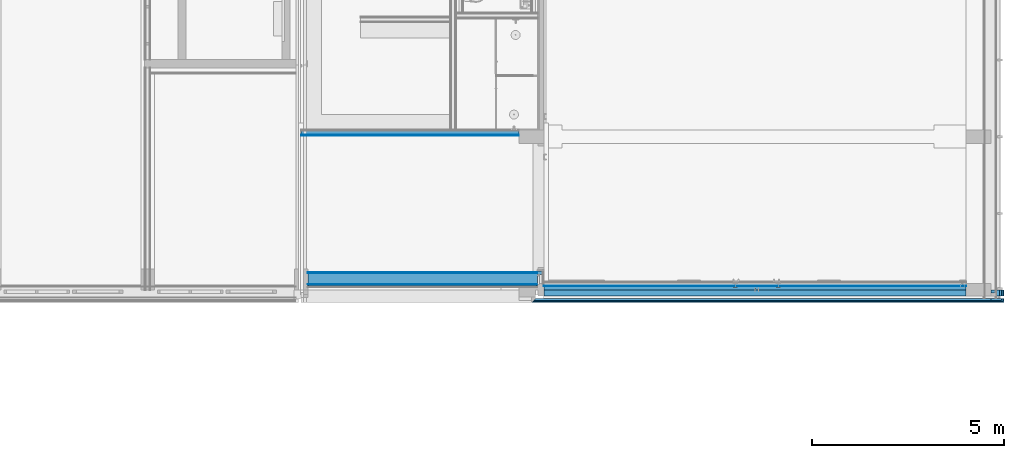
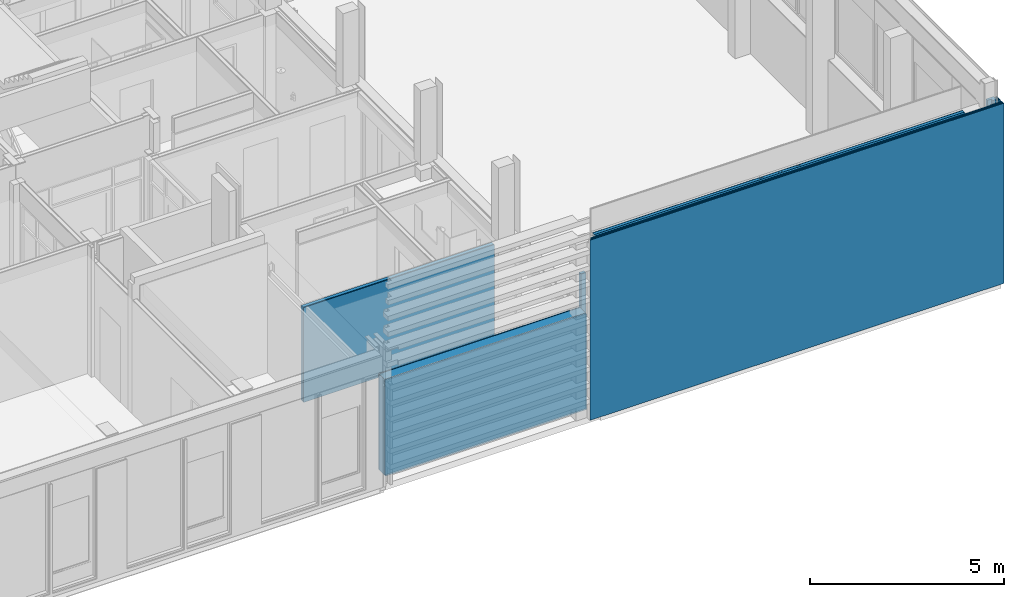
# One storey, part 76 of 109: 15 building element parts, 5 elements without a shape of their own.
"""IFC2X3 building model written with IfcOpenShell, lengths in millimetres."""

from ifc_helpers import new_model, entity, si_unit, converted_unit, derived_unit, money_unit, direction, frame, origin_with_axes, place, context, subcontext, project, spatial, faceted_brep, material, type_object, element, aggregate, save


model = new_model("IFC2X3")

# Units and contexts
model_context = context("Model", 3, precision=0.01, world=origin_with_axes(), true_north=direction((0.0, 1.0)))
body_context = subcontext(model_context, "Body", "Model", "MODEL_VIEW")
ifc_project = project(units=[si_unit("LENGTHUNIT", "METRE", prefix="MILLI"), si_unit("AREAUNIT", "SQUARE_METRE"), si_unit("VOLUMEUNIT", "CUBIC_METRE"), converted_unit("PLANEANGLEUNIT", "DEGREE", entity("IfcPlaneAngleMeasure", 0.0174532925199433), si_unit("PLANEANGLEUNIT", "RADIAN"), dimensions=[0, 0, 0, 0, 0, 0, 0]), money_unit("EUR"), converted_unit("TIMEUNIT", "Year", entity("IfcTimeMeasure", 31557600.0), si_unit("TIMEUNIT", "SECOND"), dimensions=[0, 0, 1, 0, 0, 0, 0]), si_unit("MASSUNIT", "GRAM", prefix="KILO"), si_unit("THERMODYNAMICTEMPERATUREUNIT", "DEGREE_CELSIUS"), si_unit("LUMINOUSINTENSITYUNIT", "LUMEN"), si_unit("ENERGYUNIT", "JOULE", prefix="MEGA"), derived_unit("THERMALCONDUCTANCEUNIT", [(si_unit("POWERUNIT", "WATT"), 1), (si_unit("LENGTHUNIT", "METRE"), -1), (si_unit("THERMODYNAMICTEMPERATUREUNIT", "KELVIN"), -1)]), derived_unit("SPECIFICHEATCAPACITYUNIT", [(si_unit("ENERGYUNIT", "JOULE"), 1), (si_unit("MASSUNIT", "GRAM", prefix="KILO"), -1), (si_unit("THERMODYNAMICTEMPERATUREUNIT", "KELVIN"), -1)]), derived_unit("MASSDENSITYUNIT", [(si_unit("MASSUNIT", "GRAM", prefix="KILO"), 1), (si_unit("VOLUMEUNIT", "CUBIC_METRE"), -1)])], contexts=[model_context])

# Site, building, storey
site_placement = place(None, origin_with_axes())
site = spatial("IfcSite", under=ifc_project, at=site_placement, Name="<site naam>", CompositionType="ELEMENT")
building_placement = place(site_placement, origin_with_axes())
building = spatial("IfcBuilding", under=site, at=building_placement, Name="<Naam gebouw>", CompositionType="ELEMENT")
storey_placement = place(building_placement, origin_with_axes())
storey = spatial("IfcBuildingStorey", under=building, at=storey_placement, Name="00 Begane grond", CompositionType="ELEMENT", Elevation=0.0)

# Wall, building element parts
wall_type_1 = type_object("IfcWallType", Name="MS-01 GF 150 ECO DGS/2.100.2.A 150", PredefinedType="NOTDEFINED")
wall_1_placement = place(storey_placement, frame((52000.00000000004, 4175.000000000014, 0.0), z_axis=(0.0, 0.0, 1.0), x_axis=(1.0, 0.0, 0.0)))
wall_1 = element("IfcWall", 1, at=wall_1_placement, inside=storey, type_object=wall_type_1, Name="22_Binnenwand_MS-01")
ifc_material_1 = material(Name="isolatie_steenwol LSW")
building_element_part_1_placement = place(wall_1_placement, origin_with_axes())
building_element_part_1 = element("IfcBuildingElementPart", 2, at=building_element_part_1_placement, material=ifc_material_1, Name="isolatie_steenwol LSW", context=body_context, shape_type="Brep", body=[
    faceted_brep([(5675.000000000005, -124.9999999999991, 2978.0), (5675.000000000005, -24.99999999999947, 2978.0), (0.0, -24.99999999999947, 2978.0), (0.0, -125.0, 2978.0), (5675.000000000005, -24.99999999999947, 3.000000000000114), (5675.000000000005, -125.0000073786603, 0.0), (5675.000000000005, -99.9999999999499, 0.0), (5675.000000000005, -99.9999999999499, 3.000000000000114), (135.0000000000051, -24.99999999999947, 3.000000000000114), (135.0000000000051, -25.00000000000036, 0.0), (0.0, -25.00000000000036, 0.0), (0.0, -125.0, 0.0), (135.0000000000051, -125.0000378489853, 0.0), (135.0000000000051, -125.0000378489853, 3.000000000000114), (3887.814489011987, -125.0000378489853, 3.000000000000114), (3887.814489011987, -125.0000378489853, 0.0), (3887.814488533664, -99.9999999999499, 0.0), (3887.814488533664, -99.9999999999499, 3.000000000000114)], [[[0, 1, 2, 3]], [[4, 1, 0, 5, 6, 7]], [[1, 4, 8, 9, 10, 2]], [[11, 3, 2, 10]], [[5, 0, 3, 11, 12, 13, 14, 15]], [[6, 5, 15, 16]], [[7, 6, 16, 17]], [[4, 7, 17, 14, 13, 8]], [[13, 12, 9, 8]], [[11, 10, 9, 12]], [[15, 14, 17, 16]]]),
])
ifc_material_2 = material(Name="gipsplaat")
building_element_part_2_placement = place(wall_1_placement, origin_with_axes())
building_element_part_2 = element("IfcBuildingElementPart", 3, at=building_element_part_2_placement, material=ifc_material_2, Name="gipsplaat", context=body_context, shape_type="Brep", body=[
    faceted_brep([(5675.000000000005, -137.4999999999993, 2978.0), (5675.000000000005, -124.9999999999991, 2978.0), (0.0, -125.0, 2978.0), (0.0, -137.5000000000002, 2978.0), (5675.000000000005, -125.0, 0.0), (5675.000000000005, -137.4999999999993, 0.0), (0.0, -125.0, 0.0), (0.0, -137.5000000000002, 0.0)], [[[0, 1, 2, 3]], [[4, 1, 0, 5]], [[1, 4, 6, 2]], [[7, 3, 2, 6]], [[5, 0, 3, 7]], [[4, 5, 7, 6]]]),
])
building_element_part_3_placement = place(wall_1_placement, origin_with_axes())
building_element_part_3 = element("IfcBuildingElementPart", 4, at=building_element_part_3_placement, material=ifc_material_2, Name="gipsplaat", context=body_context, shape_type="Brep", body=[
    faceted_brep([(5675.000000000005, -149.9999999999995, 2978.0), (5675.000000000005, -137.4999999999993, 2978.0), (0.0, -137.5000000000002, 2978.0), (0.0, -149.9999999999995, 2978.0), (5675.000000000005, -137.4999999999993, 0.0), (5675.000000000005, -149.9999999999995, 0.0), (0.0, -137.5000000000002, 0.0), (0.0, -150.0000000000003, 0.0)], [[[0, 1, 2, 3]], [[4, 1, 0, 5]], [[1, 4, 6, 2]], [[7, 3, 2, 6]], [[5, 0, 3, 7]], [[4, 5, 7, 6]]]),
])
aggregate(wall_1, [building_element_part_1, building_element_part_2, building_element_part_3])

wall_type_2 = type_object("IfcWallType", Name="metselwerk-lucht-kalkzandsteen 335 335", PredefinedType="NOTDEFINED")
wall_2_placement = place(storey_placement, frame((58000.00000000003, -324.0893218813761, -30.0), z_axis=(0.0, 0.0, 1.0), x_axis=(1.0, 0.0, 0.0)))
wall_2 = element("IfcWall", 5, at=wall_2_placement, inside=storey, type_object=wall_type_2, Name="21_Binnenwand_metselwerk-lucht-kalkzandsteen")
ifc_material_3 = material(Name="kalkzandsteen C")
building_element_part_4_placement = place(wall_2_placement, origin_with_axes())
building_element_part_4 = element("IfcBuildingElementPart", 6, at=building_element_part_4_placement, material=ifc_material_3, Name="kalkzandsteen C", context=body_context, shape_type="Brep", body=[
    faceted_brep([(325.0000000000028, 325.0000000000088, 29.99999858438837), (325.0000000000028, 324.9999999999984, 5524.999999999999), (335.0000265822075, 335.0000265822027, 5524.999999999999), (334.9999999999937, 334.9999999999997, 29.99999858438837), (325.0000000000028, 175.0000000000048, 5524.999999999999), (325.0000000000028, 175.0000000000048, 29.99999922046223), (11324.99999999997, 175.0000000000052, 5524.999999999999), (11324.99999999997, 335.0000014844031, 5524.999999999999), (11324.99999999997, 335.0000000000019, 29.99999858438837), (11324.99999999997, 175.0000000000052, 29.99999926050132)], [[[0, 1, 2, 3]], [[4, 1, 0, 5]], [[1, 4, 6, 7, 2]], [[7, 8, 3, 2]], [[5, 0, 3, 8, 9]], [[4, 5, 9, 6]], [[8, 7, 6, 9]]]),
    faceted_brep([(11974.99999999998, 335.0000000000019, 0.0), (11974.99999999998, 335.0000000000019, 5524.999999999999), (11974.99999999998, 335.0000007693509, 5715.000003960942), (12189.99999969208, 335.0000002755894, 5715.000003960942), (12189.99999969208, 335.0000000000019, 5665.000062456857), (12250.00000429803, 335.0000000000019, 5665.000062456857), (12250.00000429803, 335.0000000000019, 5694.999985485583), (12279.99999527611, 335.0000000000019, 5694.999985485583), (12279.99999527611, 335.0000000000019, 5665.000062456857), (12309.99999757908, 335.0000000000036, 5665.000062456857), (12309.99999999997, 335.0000000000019, 0.0), (11974.99999999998, 256.7893218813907, 0.0), (11974.99999999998, 256.7893218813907, 5524.999999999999), (11974.99999999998, 256.7893218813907, 5715.000003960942), (12084.99999999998, 256.7893218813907, 5715.000003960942), (12084.99999999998, 175.0000000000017, 5715.000003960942), (12189.99999969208, 175.0000000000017, 5715.000003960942), (12189.99999969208, 175.0000000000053, 5665.000062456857), (12250.00000429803, 175.0000000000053, 5665.000062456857), (12250.00000429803, 175.0000000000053, 5694.999985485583), (12279.99999527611, 175.0000000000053, 5694.999985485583), (12279.99999527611, 175.0000000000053, 5665.000062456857), (12309.99999757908, 175.0000000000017, 5665.000062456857), (12309.99999999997, 175.0000000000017, 0.0), (12084.99999999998, 175.0000000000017, 0.0), (12084.99999999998, 256.7893218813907, 0.0)], [[[0, 1, 2, 3, 4, 5, 6, 7, 8, 9, 10]], [[1, 0, 11, 12, 13, 2]], [[14, 15, 16, 3, 2, 13]], [[17, 4, 3, 16]], [[18, 5, 4, 17]], [[19, 6, 5, 18]], [[20, 7, 6, 19]], [[21, 8, 7, 20]], [[21, 22, 9, 8]], [[10, 9, 22, 23]], [[11, 0, 10, 23, 24, 25]], [[12, 11, 25, 14, 13]], [[15, 14, 25, 24]], [[15, 24, 23, 22, 21, 20, 19, 18, 17, 16]]]),
])
ifc_material_4 = material(Name="metselwerk AFW")
building_element_part_5_placement = place(wall_2_placement, origin_with_axes())
building_element_part_5 = element("IfcBuildingElementPart", 7, at=building_element_part_5_placement, material=ifc_material_4, Name="metselwerk AFW", context=body_context, shape_type="Brep", body=[
    faceted_brep([(12279.9999952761, 29.08932660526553, 5665.000062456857), (12309.08932188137, 0.0, 5665.000062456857), (12309.99999757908, 0.0, 5665.000062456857), (12309.99999757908, 110.0000000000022, 5665.000062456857), (12279.99999527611, 110.000000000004, 5665.000062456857), (0.0, 0.0, 5665.000062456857), (29.08932660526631, 29.08932660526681, 5665.000062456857), (0.0, 0.0, 0.0), (12309.99999999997, 0.0, 0.0), (12309.99999999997, 110.0000000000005, 0.0), (11974.99999999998, 110.000000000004, 5665.000062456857), (12199.08932188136, 109.9999999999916, 5665.000062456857), (12250.00000429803, 110.000000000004, 5665.000062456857), (12250.00000429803, 110.000000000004, 5694.999985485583), (12279.99999527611, 110.000000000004, 5694.999985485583), (110.0000000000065, 110.0000000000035, 0.0), (110.0000000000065, 110.0000000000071, 5524.999999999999), (11974.99999999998, 110.000000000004, 5524.999999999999), (12279.9999952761, 29.08932660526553, 5694.999985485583), (29.08932660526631, 29.08932660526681, 5694.999985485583), (59.08931758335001, 59.08931758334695, 5694.999985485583), (59.08931758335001, 59.08931758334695, 5665.000062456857), (59.08932188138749, 59.08932188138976, 5524.999999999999), (12250.00000429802, 59.08931758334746, 5665.000062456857), (11974.99999999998, 59.08931758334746, 5665.000062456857), (12250.00000429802, 59.08931758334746, 5694.999985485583), (11974.99999999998, 59.08932188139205, 5524.999999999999)], [[[0, 1, 2, 3, 4]], [[5, 1, 0, 6]], [[1, 5, 7, 8, 2]], [[3, 2, 8, 9]], [[10, 11, 12, 13, 14, 4, 3, 9, 15, 16, 17]], [[18, 0, 4, 14]], [[0, 18, 19, 6]], [[20, 21, 22, 16, 15, 7, 5, 6, 19]], [[7, 15, 9, 8]], [[23, 11, 10, 24]], [[11, 23, 12]], [[23, 25, 13, 12]], [[25, 18, 14, 13]], [[17, 16, 22, 26]], [[24, 10, 17, 26]], [[18, 25, 20, 19]], [[25, 23, 24, 21, 20]], [[21, 24, 26, 22]]]),
])
aggregate(wall_2, [building_element_part_4, building_element_part_5])

wall_type_3 = type_object("IfcWallType", Name="HSB_285 gevelbeplating Brise Soleil 398", PredefinedType="NOTDEFINED")
wall_3_placement = place(storey_placement, frame((52174.99998309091, 472.49980589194, 0.0), z_axis=(0.0, 0.0, 1.0), x_axis=(1.0, 0.0, 0.0)))
wall_3 = element("IfcWall", 8, at=wall_3_placement, inside=storey, type_object=wall_type_3, Name="22_Binnenwand_HSB_285")
ifc_material_5 = material(Name="hout_OSB")
building_element_part_6_placement = place(wall_3_placement, origin_with_axes())
building_element_part_6 = element("IfcBuildingElementPart", 9, at=building_element_part_6_placement, material=ifc_material_5, Name="hout_OSB", context=body_context, shape_type="Brep", body=[
    faceted_brep([(5500.000055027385, -12.50000000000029, 2.999999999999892), (0.0, -12.50000000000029, 3.000000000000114), (0.0, -12.50000000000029, 3008.0), (5980.000016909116, -12.50000000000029, 3008.0), (5980.000016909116, -12.50000000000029, 0.0), (5500.000055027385, -12.50000000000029, 0.0), (5500.000055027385, -27.49999999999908, 2.999999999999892), (0.0, -27.50000000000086, 2.999999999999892), (0.0, -27.49999999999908, 3008.0), (5980.000016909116, -27.49999999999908, 3008.0), (5980.000016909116, -27.49999999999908, 0.0), (5500.000055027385, -27.49999999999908, 0.0)], [[[0, 1, 2, 3, 4, 5]], [[1, 0, 6, 7]], [[1, 7, 8, 2]], [[8, 9, 3, 2]], [[10, 4, 3, 9]], [[11, 5, 4, 10]], [[0, 5, 11, 6]], [[6, 11, 10, 9, 8, 7]]]),
])
building_element_part_7_placement = place(wall_3_placement, origin_with_axes())
building_element_part_7 = element("IfcBuildingElementPart", 10, at=building_element_part_7_placement, material=ifc_material_2, Name="gipsplaat", context=body_context, shape_type="Brep", body=[
    faceted_brep([(5500.000055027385, 0.0, 2.999999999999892), (0.0, 0.0, 3.000000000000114), (0.0, 0.0, 3008.0), (5980.000016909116, 0.0, 3008.0), (5980.000016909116, 0.0, 0.0), (5500.000055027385, 0.0, 0.0), (5500.000055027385, -12.50000000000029, 2.999999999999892), (0.0, -12.50000000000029, 2.999999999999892), (0.0, -12.50000000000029, 3008.0), (5980.000016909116, -12.50000000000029, 3008.0), (5980.000016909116, -12.50000000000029, 0.0), (5500.000055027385, -12.50000000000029, 0.0)], [[[0, 1, 2, 3, 4, 5]], [[1, 0, 6, 7]], [[1, 7, 8, 2]], [[8, 9, 3, 2]], [[10, 4, 3, 9]], [[11, 5, 4, 10]], [[0, 5, 11, 6]], [[6, 11, 10, 9, 8, 7]]]),
])
ifc_material_6 = material(Name="folie_dampdicht")
building_element_part_8_placement = place(wall_3_placement, origin_with_axes())
building_element_part_8 = element("IfcBuildingElementPart", 11, at=building_element_part_8_placement, material=ifc_material_6, Name="folie_dampdicht", context=body_context, shape_type="Brep", body=[
    faceted_brep([(5500.000055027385, -27.49999999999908, 2.999999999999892), (0.0, -27.50000000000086, 3.000000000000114), (0.0, -27.49999999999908, 3008.0), (5980.000016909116, -27.49999999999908, 3008.0), (5980.000016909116, -27.49999999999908, 0.0), (5500.000055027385, -27.49999999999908, 0.0), (5500.000055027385, -27.99999999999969, 2.999999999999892), (0.0, -27.99999999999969, 2.999999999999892), (0.0, -27.99999999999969, 3008.0), (5980.000016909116, -27.99999999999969, 3008.0), (5980.000016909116, -27.99999999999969, 0.0), (5500.000055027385, -27.99999999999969, 0.0)], [[[0, 1, 2, 3, 4, 5]], [[1, 0, 6, 7]], [[1, 7, 8, 2]], [[8, 9, 3, 2]], [[10, 4, 3, 9]], [[11, 5, 4, 10]], [[0, 5, 11, 6]], [[6, 11, 10, 9, 8, 7]]]),
])
ifc_material_7 = material(Name="isolatie_houtvezel")
building_element_part_9_placement = place(wall_3_placement, origin_with_axes())
building_element_part_9 = element("IfcBuildingElementPart", 12, at=building_element_part_9_placement, material=ifc_material_7, Name="isolatie_houtvezel", context=body_context, shape_type="Brep", body=[
    faceted_brep([(5500.000055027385, -27.99999999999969, 2.999999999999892), (0.0, -27.99999999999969, 3.000000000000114), (0.0, -27.99999999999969, 3008.0), (5980.000016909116, -27.99999999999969, 3008.0), (5980.000016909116, -27.99999999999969, 0.0), (5500.000055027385, -27.99999999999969, 0.0), (5500.000055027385, -203.49991318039, 2.999999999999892), (0.0, -203.49991318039, 2.999999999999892), (0.0, -203.49991318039, 0.0), (0.0, -312.9999999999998, 0.0), (0.0, -312.9999999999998, 3008.0), (5980.000016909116, -312.9999999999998, 3008.0), (5980.000016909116, -312.9999999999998, 0.0), (5500.000055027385, -203.49991318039, 0.0)], [[[0, 1, 2, 3, 4, 5]], [[1, 0, 6, 7]], [[7, 8, 9, 10, 2, 1]], [[10, 11, 3, 2]], [[12, 4, 3, 11]], [[13, 5, 4, 12, 9, 8]], [[0, 5, 13, 6]], [[13, 8, 7, 6]], [[9, 12, 11, 10]]]),
])
ifc_material_8 = material(Name="folie_dampopen")
building_element_part_10_placement = place(wall_3_placement, origin_with_axes())
building_element_part_10 = element("IfcBuildingElementPart", 13, at=building_element_part_10_placement, material=ifc_material_8, Name="folie_dampopen", context=body_context, shape_type="Brep", body=[
    faceted_brep([(5980.000016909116, -317.4999999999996, 0.0), (5980.000016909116, -317.9999999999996, 0.0), (0.0, -318.0, 0.0), (0.0, -317.5, 0.0), (5980.000016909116, -317.4999999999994, 3008.0), (5980.000016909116, -317.9999999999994, 3008.0), (0.0, -317.9999999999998, 3008.0), (0.0, -317.4999999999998, 3008.0)], [[[0, 1, 2, 3]], [[0, 4, 5, 1]], [[1, 5, 6, 2]], [[3, 2, 6, 7]], [[4, 0, 3, 7]], [[5, 4, 7, 6]]]),
])
ifc_material_9 = material(Name="isolatie _steenwol_hard")
building_element_part_11_placement = place(wall_3_placement, origin_with_axes())
building_element_part_11 = element("IfcBuildingElementPart", 14, at=building_element_part_11_placement, material=ifc_material_9, Name="isolatie _steenwol_hard", context=body_context, shape_type="Brep", body=[
    faceted_brep([(5980.000016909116, -317.9999999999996, 0.0), (5980.000016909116, -367.9999999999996, 0.0), (0.0, -368.0, 0.0), (0.0, -318.0, 0.0), (5980.000016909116, -317.9999999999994, 3008.0), (5980.000016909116, -367.9999999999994, 3008.0), (0.0, -367.9999999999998, 3008.0), (0.0, -317.9999999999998, 3008.0)], [[[0, 1, 2, 3]], [[0, 4, 5, 1]], [[1, 5, 6, 2]], [[3, 2, 6, 7]], [[4, 0, 3, 7]], [[5, 4, 7, 6]]]),
])
ifc_material_10 = material(Name="brandwerende_bekleding")
building_element_part_12_placement = place(wall_3_placement, origin_with_axes())
building_element_part_12 = element("IfcBuildingElementPart", 15, at=building_element_part_12_placement, material=ifc_material_10, Name="brandwerende_bekleding", context=body_context, shape_type="Brep", body=[
    faceted_brep([(5980.000016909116, -312.9999999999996, 0.0), (5980.000016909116, -317.4999999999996, 0.0), (0.0, -317.5, 0.0), (0.0, -313.0, 0.0), (5980.000016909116, -312.9999999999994, 3008.0), (5980.000016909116, -317.4999999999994, 3008.0), (0.0, -317.4999999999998, 3008.0), (0.0, -312.9999999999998, 3008.0)], [[[0, 1, 2, 3]], [[0, 4, 5, 1]], [[1, 5, 6, 2]], [[3, 2, 6, 7]], [[4, 0, 3, 7]], [[5, 4, 7, 6]]]),
])
aggregate(wall_3, [building_element_part_6, building_element_part_7, building_element_part_8, building_element_part_9, building_element_part_10, building_element_part_11, building_element_part_12])

# Wall, building element part
wall_4_placement = place(storey_placement, frame((58155.00000000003, 530.0000000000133, 0.0), z_axis=(0.0, 0.0, 1.0), x_axis=(1.0, 0.0, 0.0)))
wall_4 = element("IfcWall", 16, at=wall_4_placement, inside=storey, type_object=wall_type_1, Name="22_Binnenwand_MS-01")
building_element_part_13_placement = place(wall_4_placement, origin_with_axes())
building_element_part_13 = element("IfcBuildingElementPart", 17, at=building_element_part_13_placement, material=ifc_material_1, Name="isolatie_steenwol LSW", context=body_context, shape_type="Brep", body=[
    faceted_brep([(0.0, -25.00000000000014, 3158.0), (2.782910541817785, -25.00000000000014, 3158.0), (2.782844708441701, -25.00000000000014, 3191.0), (0.0, -25.00000000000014, 3191.0), (0.0, -25.00000000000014, 4070.0), (144.999999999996, -25.00000000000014, 4070.0), (144.999999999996, -25.00000000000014, 3.000000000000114), (0.0, -25.00000000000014, 3.000000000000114), (0.0, -25.00000000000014, 2600.0), (19.99999999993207, -25.00000000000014, 2600.0), (19.99999999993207, -25.00000000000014, 2640.0), (0.0, -25.00000000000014, 2640.0), (0.0, -124.9999999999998, 3158.0), (2.782910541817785, -124.9999999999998, 3158.0), (2.782844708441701, -124.9999999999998, 3191.0), (0.0, -124.9999999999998, 3191.0), (0.0, -124.9999999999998, 4070.0), (144.999999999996, -124.9999999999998, 4070.0), (144.999999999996, -51.99999999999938, 0.0), (144.999999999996, -51.99999999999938, 3.000000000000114), (144.999999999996, -124.9999999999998, 0.0), (0.0, -51.99999999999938, 3.000000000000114), (0.0, -51.99999999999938, 2640.0), (0.0, -51.99999999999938, 2600.0), (0.0, -51.99999999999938, 0.0), (0.0, -124.9999999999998, 0.0), (19.99999999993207, -51.99999999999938, 2600.0), (19.99999999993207, -51.99999999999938, 2640.0)], [[[0, 1, 2, 3, 4, 5, 6, 7, 8, 9, 10, 11]], [[1, 0, 12, 13]], [[2, 1, 13, 14]], [[3, 2, 14, 15]], [[3, 15, 16, 4]], [[17, 5, 4, 16]], [[18, 19, 6, 5, 17, 20]], [[7, 6, 19, 21]], [[12, 0, 11, 22, 23, 8, 7, 21, 24, 25]], [[9, 8, 23, 26]], [[10, 9, 26, 27]], [[11, 10, 27, 22]], [[13, 12, 25, 20, 17, 16, 15, 14]], [[19, 18, 24, 21]], [[24, 18, 20, 25]], [[23, 22, 27, 26]]]),
])
aggregate(wall_4, [building_element_part_13])

# Wall, building element parts
wall_type_4 = type_object("IfcWallType", Name="therm. voorzetwand 215mm 215", PredefinedType="NOTDEFINED")
wall_5_placement = place(storey_placement, frame((58325.00000000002, 10.91067811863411, 0.0), z_axis=(0.0, 0.0, 1.0), x_axis=(1.0, 5.486340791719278e-09, 0.0)))
wall_5 = element("IfcWall", 18, at=wall_5_placement, inside=storey, type_object=wall_type_4, Name="22_Binnenwand_therm.")
ifc_material_11 = material(Name="metal_stud")
building_element_part_14_placement = place(wall_5_placement, origin_with_axes())
building_element_part_14 = element("IfcBuildingElementPart", 19, at=building_element_part_14_placement, material=ifc_material_11, Name="metal_stud", context=body_context, shape_type="Brep", body=[
    faceted_brep([(5.486242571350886e-07, 99.99999999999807, 5494.999999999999), (4981.750000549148, 99.99997266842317, 5494.999999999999), (4981.750000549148, 99.99997266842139, 0.0), (5.486313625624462e-07, 99.99999999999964, 0.0), (4981.750000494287, 89.9999726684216, 5494.999999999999), (4.937632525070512e-07, 89.99999999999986, 5494.999999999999), (4981.750000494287, 89.9999726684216, 0.0), (4.937703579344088e-07, 89.99999999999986, 0.0)], [[[0, 1, 2, 3]], [[4, 1, 0, 5]], [[1, 4, 6, 2]], [[7, 3, 2, 6]], [[5, 0, 3, 7]], [[4, 5, 7, 6]]]),
    faceted_brep([(4988.250000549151, 99.99997263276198, 5494.999999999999), (6101.750000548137, 99.99996652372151, 5494.999999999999), (6101.750000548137, 99.99996652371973, 0.0), (4988.250000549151, 99.9999726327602, 0.0), (6101.750000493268, 89.99996652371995, 5494.999999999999), (4988.250000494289, 89.99997263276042, 5494.999999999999), (6101.750000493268, 89.99996652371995, 0.0), (4988.250000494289, 89.99997263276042, 0.0)], [[[0, 1, 2, 3]], [[4, 1, 0, 5]], [[1, 4, 6, 2]], [[2, 6, 7, 3]], [[5, 0, 3, 7]], [[4, 5, 7, 6]]]),
    faceted_brep([(6108.250000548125, 99.99996648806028, 5494.999999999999), (11000.00011498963, 99.99993965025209, 5494.999999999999), (11000.00011498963, 99.99993965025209, 0.0), (6108.250000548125, 99.9999664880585, 0.0), (11000.00011493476, 89.9999396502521, 5494.999999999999), (6108.250000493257, 89.99996648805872, 5494.999999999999), (11000.00011493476, 89.99993965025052, 0.0), (6108.250000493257, 89.99996648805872, 0.0)], [[[0, 1, 2, 3]], [[4, 1, 0, 5]], [[1, 4, 6, 2]], [[2, 6, 7, 3]], [[5, 0, 3, 7]], [[4, 5, 7, 6]]]),
])
ifc_material_12 = material(Name="isolatie_steenwol")
building_element_part_15_placement = place(wall_5_placement, origin_with_axes())
building_element_part_15 = element("IfcBuildingElementPart", 20, at=building_element_part_15_placement, material=ifc_material_12, Name="isolatie_steenwol", context=body_context, shape_type="Brep", body=[
    faceted_brep([(6108.250000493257, 89.99996648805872, 5494.999999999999), (11000.00011493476, 89.9999396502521, 5494.999999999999), (11000.00011493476, 89.99993965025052, 0.0), (6108.250000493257, 89.99996648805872, 0.0), (11000.00011444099, -6.034975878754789e-05, 5494.999999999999), (6108.250000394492, 71.9969916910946, 5494.999999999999), (6165.000000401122, 71.99699137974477, 5494.999999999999), (6165.000000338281, 60.99699127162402, 5494.999999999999), (6045.000000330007, 60.99699192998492, 5494.999999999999), (6045.000000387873, 71.99699203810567, 5494.999999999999), (6101.750000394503, 71.99699172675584, 5494.999999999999), (6101.750000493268, 89.99996652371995, 5494.999999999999), (4988.250000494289, 89.99997263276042, 5494.999999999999), (4988.250000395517, 71.99699783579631, 5494.999999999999), (5045.000000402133, 71.99699752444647, 5494.999999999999), (5045.0000003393, 60.99699741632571, 5494.999999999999), (4925.000000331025, 60.99699807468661, 5494.999999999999), (4925.000000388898, 71.99699818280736, 5494.999999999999), (4981.750000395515, 71.9969978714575, 5494.999999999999), (4981.750000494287, 89.9999726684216, 5494.999999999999), (4.937632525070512e-07, 89.99999999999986, 5494.999999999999), (0.0, 0.0, 5494.999999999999), (5496.999999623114, -3.015841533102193e-05, 5494.999999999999), (5496.999999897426, 49.99996994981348, 5494.999999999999), (5505.000002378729, 49.999969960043, 5494.999999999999), (5505.00000211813, 2.49996979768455, 5494.999999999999), (5584.999997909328, 2.499969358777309, 5494.999999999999), (5584.999998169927, 49.99996952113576, 5494.999999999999), (5593.00000065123, 49.99996942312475, 5494.999999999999), (5593.000000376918, -3.068510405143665e-05, 5494.999999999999), (11000.00011444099, -6.034974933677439e-05, 0.0), (5505.00000211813, 2.49996979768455, 0.0), (5505.000002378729, 49.999969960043, 0.0), (5496.999999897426, 49.99996994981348, 0.0), (5496.999999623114, -3.015841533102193e-05, 0.0), (0.0, 0.0, 0.0), (4.937703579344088e-07, 89.99999999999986, 0.0), (4981.750000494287, 89.9999726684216, 0.0), (4981.750000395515, 71.9969978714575, 0.0), (4925.000000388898, 71.99699818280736, 0.0), (4925.000000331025, 60.99699807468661, 0.0), (5045.0000003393, 60.99699741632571, 0.0), (5045.000000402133, 71.99699752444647, 0.0), (4988.250000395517, 71.99699783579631, 0.0), (4988.250000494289, 89.99997263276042, 0.0), (6101.750000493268, 89.99996652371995, 0.0), (6101.750000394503, 71.99699172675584, 0.0), (6045.000000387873, 71.99699203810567, 0.0), (6045.000000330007, 60.99699192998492, 0.0), (6165.000000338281, 60.99699127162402, 0.0), (6165.000000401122, 71.99699137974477, 0.0), (6108.250000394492, 71.9969916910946, 0.0), (5593.000000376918, -3.068510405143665e-05, 0.0), (5593.00000065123, 49.99996942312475, 0.0), (5584.999998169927, 49.99996952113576, 0.0), (5584.999997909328, 2.499969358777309, 0.0)], [[[0, 1, 2, 3]], [[4, 1, 0, 5, 6, 7, 8, 9, 10, 11, 12, 13, 14, 15, 16, 17, 18, 19, 20, 21, 22, 23, 24, 25, 26, 27, 28, 29]], [[1, 4, 30, 2]], [[31, 32, 33, 34, 35, 36, 37, 38, 39, 40, 41, 42, 43, 44, 45, 46, 47, 48, 49, 50, 51, 3, 2, 30, 52, 53, 54, 55]], [[5, 0, 3, 51]], [[6, 5, 51, 50]], [[7, 6, 50, 49]], [[8, 7, 49, 48]], [[9, 8, 48, 47]], [[10, 9, 47, 46]], [[11, 10, 46, 45]], [[12, 11, 45, 44]], [[13, 12, 44, 43]], [[14, 13, 43, 42]], [[15, 14, 42, 41]], [[16, 15, 41, 40]], [[17, 16, 40, 39]], [[18, 17, 39, 38]], [[19, 18, 38, 37]], [[20, 19, 37, 36]], [[21, 20, 36, 35]], [[22, 21, 35, 34]], [[23, 22, 34, 33]], [[24, 23, 33, 32]], [[25, 24, 32, 31]], [[26, 25, 31, 55]], [[27, 26, 55, 54]], [[28, 27, 54, 53]], [[29, 28, 53, 52]], [[4, 29, 52, 30]]]),
])
aggregate(wall_5, [building_element_part_14, building_element_part_15])

save(model, "model.ifc")
